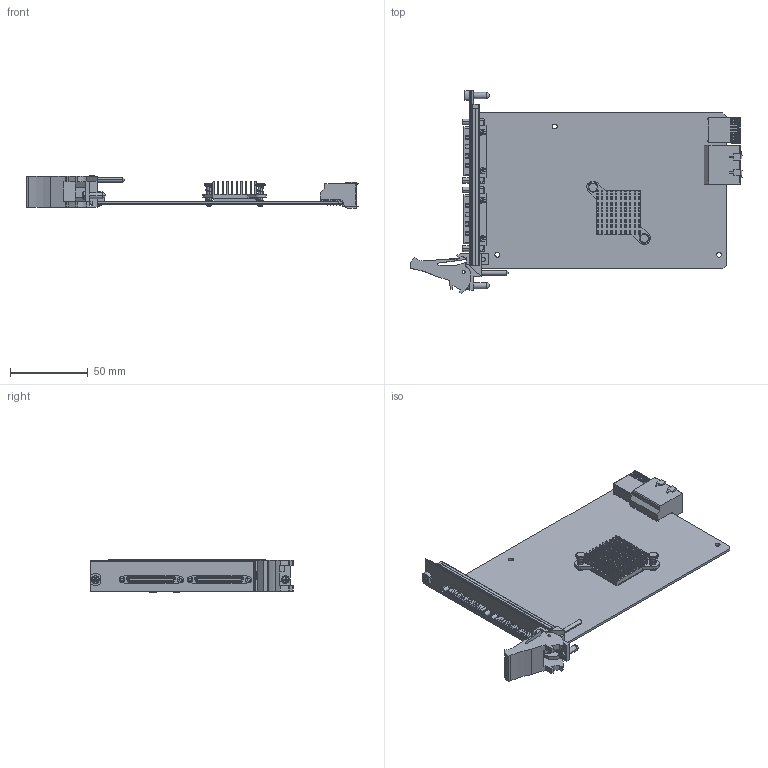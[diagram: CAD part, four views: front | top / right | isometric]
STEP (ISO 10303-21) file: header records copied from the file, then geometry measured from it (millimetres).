
FILE_DESCRIPTION((''),'2;1');
FILE_NAME('CU_PXIE-7861_7862','2018-08-21T',('kleong'),(''),'CREO PARAMETRIC BY PTC INC, 2017480','CREO PARAMETRIC BY PTC INC, 2017480','');
FILE_SCHEMA(('AUTOMOTIVE_DESIGN { 1 0 10303 214 1 1 1 1 }'));
Products named in the file (1): CU_PXIE-7861_7862
Bounding box: 213.82 x 130.5 x 21.05 mm (x, y, z)
Volume: 63126.9 mm3; surface area: 65417.7 mm2
Topology: 13 solids, 17 shells, 5541 faces, 15301 edges, 10066 vertices
Faces by surface type: plane 4204, cylinder 1203, bspline 78, cone 28, torus 14, sphere 14
Entity records: 232116 total; most frequent: CARTESIAN_POINT 50295, ORIENTED_EDGE 30578, DIRECTION 27660, EDGE_CURVE 15289, VECTOR 11560, LINE 11560, VERTEX_POINT 10066, AXIS2_PLACEMENT_3D 8050
